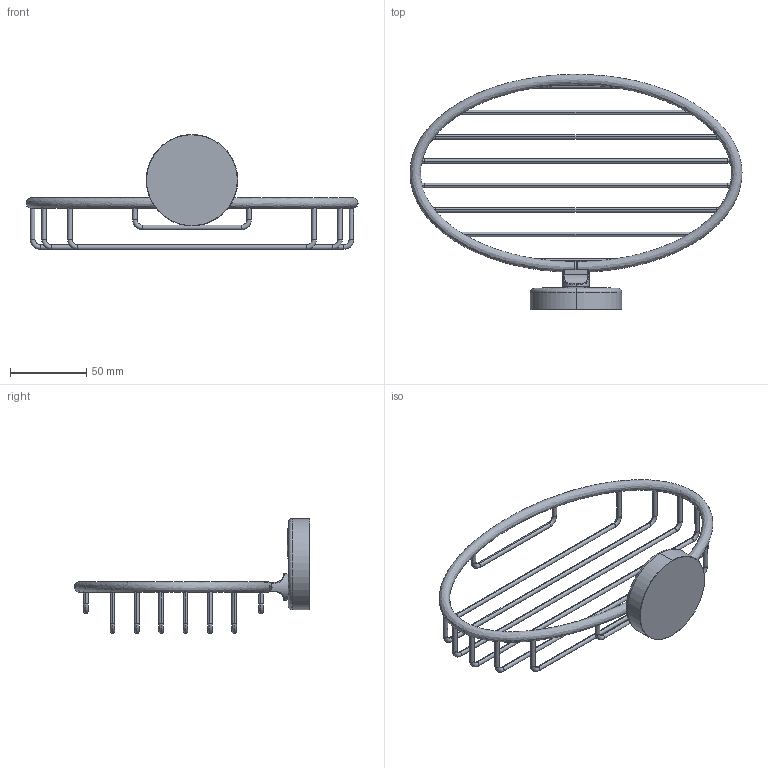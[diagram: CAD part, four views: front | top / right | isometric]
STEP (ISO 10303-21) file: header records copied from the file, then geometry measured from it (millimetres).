
FILE_DESCRIPTION(('THIS FILE CONTAINS SOME STEP INSTANCES'),'1');
FILE_NAME('lux_048.stp','2015-12-11T15:18:42',('UNDEFINED'),('UNDEFINED'),'T-FLEX CAD STEP converter','T-FLEX CAD','');
FILE_SCHEMA(('CONFIG_CONTROL_DESIGN'));
Length unit declared in the file: metre
Products named in the file (1): 3D 鐨飹懤艜_15
Bounding box: 217.97 x 154.49 x 75.5 mm (x, y, z)
Volume: 73411.1 mm3; surface area: 35193.5 mm2
Topology: 1 solids, 1 shells, 133 faces, 316 edges, 185 vertices
Faces by surface type: cylinder 64, torus 34, cone 12, bspline 12, plane 11
Entity records: 10428 total; most frequent: CARTESIAN_POINT 7873, ORIENTED_EDGE 630, DIRECTION 392, EDGE_CURVE 315, VERTEX_POINT 185, EDGE_LOOP 152, AXIS2_PLACEMENT_3D 150, FACE_OUTER_BOUND 134
